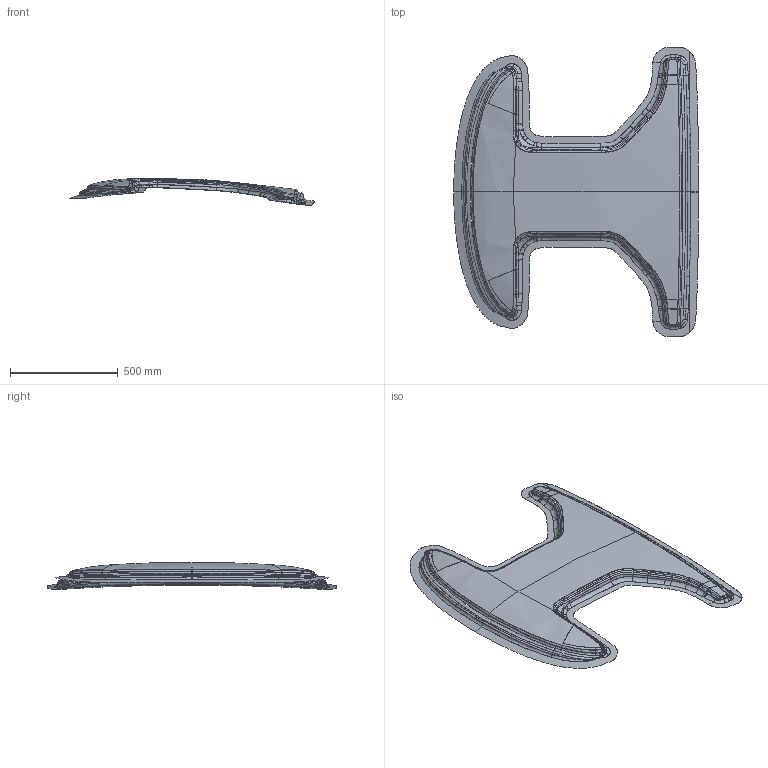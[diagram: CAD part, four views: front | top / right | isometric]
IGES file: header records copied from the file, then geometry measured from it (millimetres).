
Start section: START IGES DATA FILE
Global section: file name: roof_part.igs; native system: DYNAFORM VER.3.1,DYNAFORM IGES TRANSLATOR, ENGINEERING TECHNOLOGY ASSOCIATES, INC.; preprocessor: 980406; date: 051121.220138; units: millimetre
Bounding box: 1134.8 x 1341.9 x 123.55 mm (x, y, z)
Surface area: 1099921 mm2 (no closed solid volume)
Topology: 0 solids, 0 shells, 418 faces, 6224 edges, 6204 vertices
Faces by surface type: bspline 418
